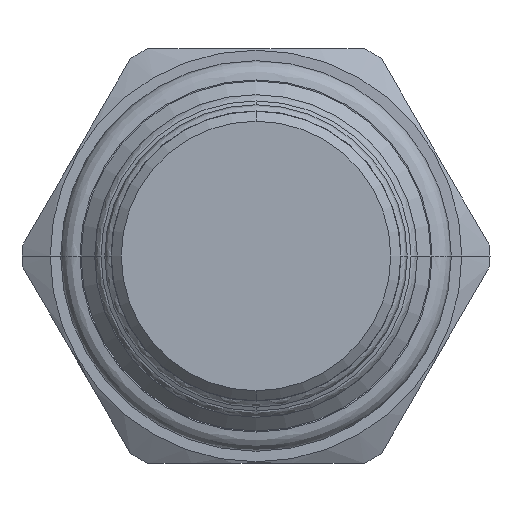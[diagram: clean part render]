
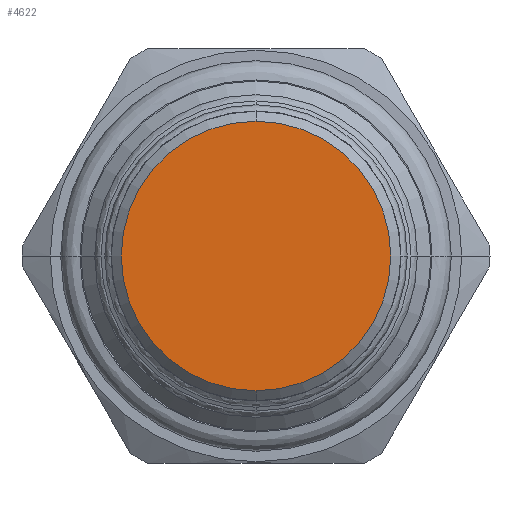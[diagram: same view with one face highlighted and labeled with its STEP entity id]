
A CAD part, front view. The second image highlights one B-rep face of the part: STEP entity #4622.
In plain terms, the highlighted planar face has unit normal (0, -1, 0).
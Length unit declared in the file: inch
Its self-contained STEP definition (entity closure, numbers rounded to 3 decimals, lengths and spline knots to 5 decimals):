
#1984=CARTESIAN_POINT('',(0.,-2.7795,0.));
#1985=DIRECTION('',(0.,1.,0.));
#1986=DIRECTION('',(0.,0.,-1.));
#1987=AXIS2_PLACEMENT_3D('',#1984,#1985,#1986);
#1994=CARTESIAN_POINT('',(0.,-2.7795,0.));
#1995=DIRECTION('',(0.,1.,0.));
#1996=DIRECTION('',(0.,0.,1.));
#1997=AXIS2_PLACEMENT_3D('',#1994,#1995,#1996);
#2170=CARTESIAN_POINT('',(0.,-2.7795,-0.406));
#2171=CARTESIAN_POINT('',(0.,-2.7795,0.406));
#2172=VERTEX_POINT('',#2170);
#2173=VERTEX_POINT('',#2171);
#4612=CARTESIAN_POINT('',(0.,-2.7795,0.));
#4613=DIRECTION('',(0.,-1.,0.));
#4614=DIRECTION('',(0.,0.,-1.));
#4615=AXIS2_PLACEMENT_3D('',#4612,#4613,#4614);
#4616=PLANE('',#4615);
#4618=ORIENTED_EDGE('',*,*,#4617,.T.);
#4619=ORIENTED_EDGE('',*,*,#4602,.T.);
#4620=EDGE_LOOP('',(#4618,#4619));
#4621=FACE_OUTER_BOUND('',#4620,.F.);
#4622=ADVANCED_FACE('',(#4621),#4616,.T.);
#1988=CIRCLE('',#1987,0.406);
#1998=CIRCLE('',#1997,0.406);
#4602=EDGE_CURVE('',#2172,#2173,#1988,.T.);
#4617=EDGE_CURVE('',#2173,#2172,#1998,.T.);
